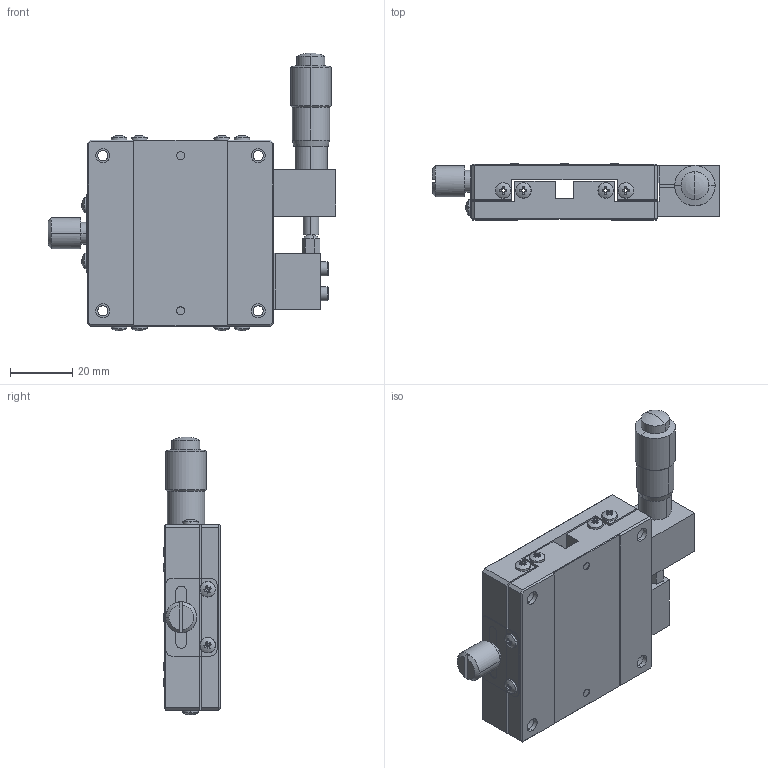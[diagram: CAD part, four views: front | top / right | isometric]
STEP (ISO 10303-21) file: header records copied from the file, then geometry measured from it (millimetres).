
FILE_DESCRIPTION (( 'STEP AP214' ), '1' );
FILE_NAME ('X60-R.STEP', '2022-09-04T03:21:18', ( '' ), ( '' ), 'SwSTEP 2.0', 'SolidWorks 2017', '' );
FILE_SCHEMA (( 'AUTOMOTIVE_DESIGN' ));
Length unit declared in the file: millimetre
Products named in the file (1): X60-R
Bounding box: 92.6 x 18.1 x 89.45 mm (x, y, z)
Surface area: 28144 mm2 (no closed solid volume)
Topology: 0 solids, 20 shells, 436 faces, 1215 edges, 791 vertices
Faces by surface type: plane 233, cylinder 108, cone 73, sphere 12, torus 8, bspline 2
Entity records: 15056 total; most frequent: CARTESIAN_POINT 3856, DIRECTION 2431, ORIENTED_EDGE 2149, EDGE_CURVE 1203, AXIS2_PLACEMENT_3D 917, VERTEX_POINT 791, VECTOR 597, LINE 597
